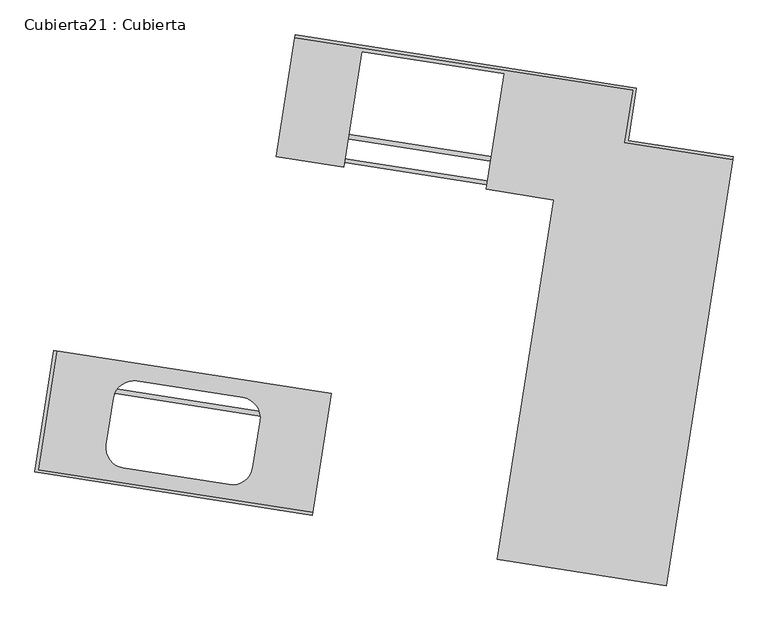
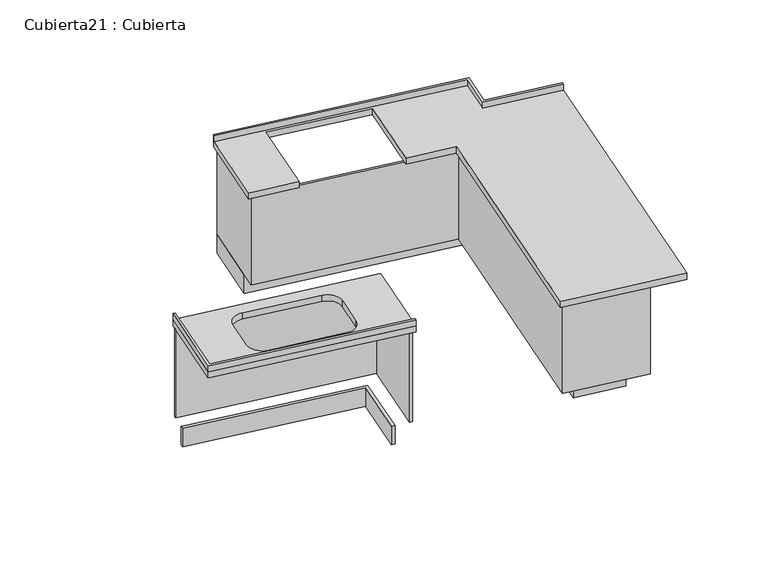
"""IFC4 building model written with IfcOpenShell, lengths in millimetres: furniture geometry, Cubierta21 : Cubierta."""

from ifc_helpers import new_model, si_unit, frame, origin, place, context, project, spatial, polyline, circle_curve, outline, extrude, faceted_brep, source, transform, mapped, element, save
from ifc_brep_helpers import plane_surface, revolved_surface, advanced_brep


def cubierta21_cubierta_3cf0f84c(model_context):
    return source(origin(), model_context, "Body", "SolidModel", [
        extrude(outline(polyline([(-32367.9768771, -60096.1396805), (-32353.1558375, -60098.4498287), (-32450.9521109, -60725.8738393), (-31003.4305749, -60951.4983124), (-31005.7407231, -60966.3193521), (-32468.0832987, -60738.3847307), (-32367.9768771, -60096.1396805)])), frame((0.0, 0.0, 10520.0), z_axis=(0.0, 0.0, 1.0), x_axis=(1.0, 0.0, 0.0)), (0.0, 0.0, 1.0), 50.0),
        extrude(outline(polyline([(-32391.078359, -60244.3500768), (-31076.9461658, -60449.1832184), (-31153.9511054, -60943.2178723), (-31178.6528381, -60939.3676253), (-31105.4981455, -60470.0347041), (-32394.928606, -60269.0518095), (-32391.078359, -60244.3500768)])), frame((0.0, 0.0, 9600.0), z_axis=(0.0, 0.0, 1.0), x_axis=(1.0, 0.0, 0.0)), (0.0, 0.0, 1.0), 150.0),
        extrude(outline(polyline([(-32371.8271241, -60120.8414133), (-30934.1862674, -60344.9257898), (-31030.4424419, -60962.4691072), (-31050.2038281, -60959.3889096), (-30957.0278511, -60361.6069784), (-32374.9073217, -60140.6027995), (-32371.8271241, -60120.8414133)])), frame((0.0, 0.0, 9750.0), z_axis=(0.0, 0.0, 1.0), x_axis=(1.0, 0.0, 0.0)), (0.0, 0.0, 1.0), 720.0),
        extrude(outline(polyline([(-29488.1543355, -61132.0195588), (-29858.680322, -61074.2658546), (-29562.9813552, -59177.1727934), (-31148.8325985, -58929.9869365), (-31071.8276589, -58435.9522826), (-31052.0662727, -58439.0324802), (-31125.2209654, -58908.3654014), (-29534.4293756, -59156.3213077), (-29830.1283424, -61053.4143689), (-29509.0058212, -61103.4675791), (-29183.2749274, -59013.7009975), (-29158.5731947, -59017.5512445), (-29488.1543355, -61132.0195588)])), frame((0.0, 0.0, 9600.0), z_axis=(0.0, 0.0, 1.0), x_axis=(1.0, 0.0, 0.0)), (0.0, 0.0, 1.0), 150.0),
        extrude(outline(polyline([(-30001.4402205, -61178.5232832), (-29705.7412536, -59281.430222), (-31168.0838334, -59053.4956), (-31071.8276589, -58435.9522826), (-31052.0662727, -58439.0324802), (-31145.2422497, -59036.8144114), (-29682.8996699, -59264.7490334), (-29978.5986367, -61161.8420946), (-29400.5780955, -61251.9378734), (-29054.8259174, -59033.7222818), (-29035.0645312, -59036.8024794), (-29383.8969069, -61274.7794572), (-30001.4402205, -61178.5232832)])), frame((0.0, 0.0, 9750.0), z_axis=(0.0, 0.0, 1.0), x_axis=(1.0, 0.0, 0.0)), (0.0, 0.0, 1.0), 720.0),
        faceted_brep([(-31196.6358131, -59074.3470857, 10520.0), (-30840.9308602, -59129.7906426, 10520.0), (-30745.9475854, -58520.4137698, 10520.0), (-29995.0149114, -58637.4612781, 10520.0), (-30089.9981863, -59246.8381508, 10520.0), (-29734.2932333, -59302.2817077, 10520.0), (-30029.9921986, -61199.3747588, 10520.0), (-29140.7298255, -61337.9836496, 10520.0), (-28790.3573524, -59090.1259888, 10520.0), (-29358.497216, -59001.5703064, 10520.0), (-29315.3744506, -58724.9109056, 10520.0), (-31098.8395398, -58446.9230752, 10520.0), (-29298.2432627, -58712.4000141, 10470.0), (-29341.3660281, -58989.059415, 10470.0), (-28788.0472042, -59075.3049492, 10470.0), (-29140.7298255, -61337.9836496, 10470.0), (-30029.9921986, -61199.3747588, 10470.0), (-29734.2932333, -59302.2817077, 10470.0), (-30089.9981863, -59246.8381508, 10470.0), (-29995.0149114, -58637.4612781, 10470.0), (-30745.9475854, -58520.4137698, 10470.0), (-30840.9308602, -59129.7906426, 10470.0), (-31196.6358131, -59074.3470857, 10470.0), (-31096.5293916, -58432.1020356, 10470.0), (-28788.0472042, -59075.3049492, 10570.0), (-28790.3573524, -59090.1259888, 10570.0), (-29315.3744506, -58724.9109056, 10570.0), (-31098.8395398, -58446.9230752, 10570.0), (-31096.5293916, -58432.1020356, 10570.0), (-29298.2432628, -58712.4000141, 10570.0), (-29341.3660281, -58989.059415, 10570.0), (-29358.497216, -59001.5703064, 10570.0)], [[[0, 1, 2, 3, 4, 5, 6, 7, 8, 9, 10, 11]], [[12, 13, 14, 15, 16, 17, 18, 19, 20, 21, 22, 23]], [[24, 25, 8, 7, 15, 14]], [[10, 26, 27, 11]], [[12, 23, 28, 29]], [[11, 27, 28, 23, 22, 0]], [[5, 4, 18, 17]], [[6, 5, 17, 16]], [[7, 6, 16, 15]], [[1, 0, 22, 21]], [[2, 1, 21, 20]], [[3, 2, 20, 19]], [[4, 3, 19, 18]], [[25, 24, 30, 29, 28, 27, 26, 31]], [[8, 25, 31, 9]], [[24, 14, 13, 30]], [[26, 10, 9, 31]], [[12, 29, 30, 13]]]),
        advanced_brep(
        [(-30905.6342877, -60324.0743041, 10520.0), (-32367.9768771, -60096.1396805, 10520.0), (-32468.0832948, -60738.3847061, 10520.0), (-31005.7407055, -60966.3193297, 10520.0), (-32090.9630233, -60594.7513314, 10520.0), (-32052.4605534, -60347.7340044, 10520.0), (-31930.2580804, -60258.4896456, 10520.0), (-31371.9989215, -60345.5052274, 10520.0), (-31282.7545626, -60467.7077004, 10520.0), (-31321.2570325, -60714.7250274, 10520.0), (-31443.4595055, -60803.9693862, 10520.0), (-32001.7186644, -60716.9538044, 10520.0), (-30905.6342877, -60324.0743041, 10470.0), (-31005.7407055, -60966.3193297, 10470.0), (-32468.0832948, -60738.3847061, 10470.0), (-32367.9768771, -60096.1396805, 10470.0), (-32090.9630233, -60594.7513314, 10470.0), (-32001.7186644, -60716.9538044, 10470.0), (-31443.4595055, -60803.9693862, 10470.0), (-31321.2570325, -60714.7250274, 10470.0), (-31282.7545626, -60467.7077004, 10470.0), (-31371.9989215, -60345.5052274, 10470.0), (-31930.2580804, -60258.4896456, 10470.0), (-32052.4605534, -60347.7340044, 10470.0)],
        [
            (0, 1),
            (1, 2),
            (2, 3),
            (3, 0),
            (4, 5),
            (5, 6, circle_curve(frame((-31946.7371375, -60364.2130615, 10520.0), z_axis=(0.0, 0.0, -1.0), x_axis=(0.9880693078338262, -0.15400987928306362, 0.0)), 107.0)),
            (6, 7),
            (7, 8, circle_curve(frame((-31388.4779786, -60451.2286433, 10520.0), z_axis=(0.0, 0.0, -1.0), x_axis=(0.9880693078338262, -0.15400987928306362, 0.0)), 107.0)),
            (8, 9),
            (9, 10, circle_curve(frame((-31426.9804484, -60698.2459703, 10520.0), z_axis=(0.0, 0.0, -1.0), x_axis=(0.9880693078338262, -0.15400987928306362, 0.0)), 107.0)),
            (10, 11),
            (11, 4, circle_curve(frame((-31985.2396073, -60611.2303885, 10520.0), z_axis=(0.0, 0.0, -1.0), x_axis=(0.9880693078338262, -0.15400987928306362, 0.0)), 107.0)),
            (12, 13),
            (13, 14),
            (14, 15),
            (15, 12),
            (16, 17, circle_curve(frame((-31985.2396073, -60611.2303885, 10470.0), z_axis=(0.0, 0.0, 1.0), x_axis=(0.9880693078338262, -0.15400987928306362, 0.0)), 107.0)),
            (17, 18),
            (18, 19, circle_curve(frame((-31426.9804484, -60698.2459703, 10470.0), z_axis=(0.0, 0.0, 1.0), x_axis=(0.9880693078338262, -0.15400987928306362, 0.0)), 107.0)),
            (19, 20),
            (20, 21, circle_curve(frame((-31388.4779786, -60451.2286433, 10470.0), z_axis=(0.0, 0.0, 1.0), x_axis=(0.9880693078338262, -0.15400987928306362, 0.0)), 107.0)),
            (21, 22),
            (22, 23, circle_curve(frame((-31946.7371375, -60364.2130615, 10470.0), z_axis=(0.0, 0.0, 1.0), x_axis=(0.9880693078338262, -0.15400987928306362, 0.0)), 107.0)),
            (23, 16),
            (4, 16),
            (23, 5),
            (22, 6),
            (21, 7),
            (20, 8),
            (19, 9),
            (18, 10),
            (17, 11),
            (0, 12),
            (15, 1),
            (14, 2),
            (13, 3),
        ],
        [
            plane_surface(frame((-31002.8178957, -58446.7088005, 10520.0), z_axis=(0.0, 0.0, 1.0), x_axis=(-0.9880693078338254, 0.15400987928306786, 0.0))),
            plane_surface(frame((-31002.8178957, -58446.7088005, 10470.0), z_axis=(0.0, 0.0, -1.0), x_axis=(0.9880693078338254, -0.15400987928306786, 0.0))),
            plane_surface(frame((-32090.9630233, -60594.7513314, 10520.0), z_axis=(0.9880693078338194, -0.1540098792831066, 0.0), x_axis=(0.0, 0.0, -1.0))),
            revolved_surface(polyline([(-31841.01372156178, -60380.69211858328, 10470.0), (-31841.01372156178, -60380.69211858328, 10520.0)]), (-31946.7371375, -60364.2130615, 9620.0), (0.0, 0.0, -1.0000000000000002)),
            plane_surface(frame((-31930.2580804, -60258.4896456, 10520.0), z_axis=(-0.15400987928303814, -0.9880693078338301, 0.0), x_axis=(0.0, 0.0, -1.0))),
            revolved_surface(polyline([(-31282.75456266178, -60467.70770038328, 10470.0), (-31282.75456266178, -60467.70770038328, 10520.0)]), (-31388.4779786, -60451.2286433, 9620.0), (0.0, 0.0, -1.0000000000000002)),
            plane_surface(frame((-31282.7545626, -60467.7077004, 10520.0), z_axis=(-0.9880693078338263, 0.15400987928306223, 0.0), x_axis=(0.0, 0.0, -1.0))),
            revolved_surface(polyline([(-31321.25703246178, -60714.72502738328, 10470.0), (-31321.25703246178, -60714.72502738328, 10520.0)]), (-31426.9804484, -60698.2459703, 9620.0), (0.0, 0.0, -1.0000000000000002)),
            plane_surface(frame((-31443.4595055, -60803.9693862, 10520.0), z_axis=(0.1540098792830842, 0.9880693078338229, 0.0), x_axis=(0.0, 0.0, -1.0))),
            revolved_surface(polyline([(-31879.51619136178, -60627.709445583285, 10470.0), (-31879.51619136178, -60627.709445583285, 10520.0)]), (-31985.2396073, -60611.2303885, 9620.0), (0.0, 0.0, -1.0000000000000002)),
            plane_surface(frame((-30905.6342877, -60324.0743041, 10520.0), z_axis=(0.1540098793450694, 0.9880693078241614, 0.0), x_axis=(0.0, 0.0, -1.0))),
            plane_surface(frame((-32367.9768771, -60096.1396805, 10520.0), z_axis=(-0.988069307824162, 0.1540098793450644, 0.0), x_axis=(0.0, 0.0, -1.0))),
            plane_surface(frame((-32468.0832948, -60738.3847061, 10520.0), z_axis=(-0.15400987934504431, -0.9880693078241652, 0.0), x_axis=(0.0, 0.0, -1.0))),
            plane_surface(frame((-31005.7407055, -60966.3193297, 10520.0), z_axis=(0.9880693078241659, -0.15400987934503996, 0.0), x_axis=(0.0, 0.0, -1.0))),
        ],
        [
            (0, [[1, 2, 3, 4], [5, 6, 7, 8, 9, 10, 11, 12]]),
            (1, [[13, 14, 15, 16], [17, 18, 19, 20, 21, 22, 23, 24]]),
            (2, [[-5, 25, -24, 26]]),
            (3, [[-6, -26, -23, 27]]),
            (4, [[-7, -27, -22, 28]]),
            (5, [[-8, -28, -21, 29]]),
            (6, [[-9, -29, -20, 30]]),
            (7, [[-10, -30, -19, 31]]),
            (8, [[-11, -31, -18, 32]]),
            (9, [[-12, -32, -17, -25]]),
            (10, [[-1, 33, -16, 34]]),
            (11, [[-2, -34, -15, 35]]),
            (12, [[-3, -35, -14, 36]]),
            (13, [[-4, -36, -13, -33]]),
        ],
    ),
    ])


if __name__ == "__main__":
    model = new_model("IFC4")
    model_context = context("Model", 3, world=origin())
    ifc_project = project(units=[si_unit("LENGTHUNIT", "METRE", prefix="MILLI")], contexts=[model_context])
    site = spatial("IfcSite", under=ifc_project)
    building = spatial("IfcBuilding", under=site)
    placement = place(None, origin())
    cubierta21_cubierta_shape = cubierta21_cubierta_3cf0f84c(model_context)
    element("IfcFurniture", 1, ObjectType="Cubierta21 : Cubierta", at=placement, inside=building, context=model_context, shape_type="MappedRepresentation", body=[
        mapped(cubierta21_cubierta_shape, transform((0.0, 0.0, 0.0), x_axis=(1.0, 0.0, 0.0), y_axis=(0.0, 1.0, 0.0), z_axis=(0.0, 0.0, 1.0))),
    ])
    save(model, "model.ifc")
